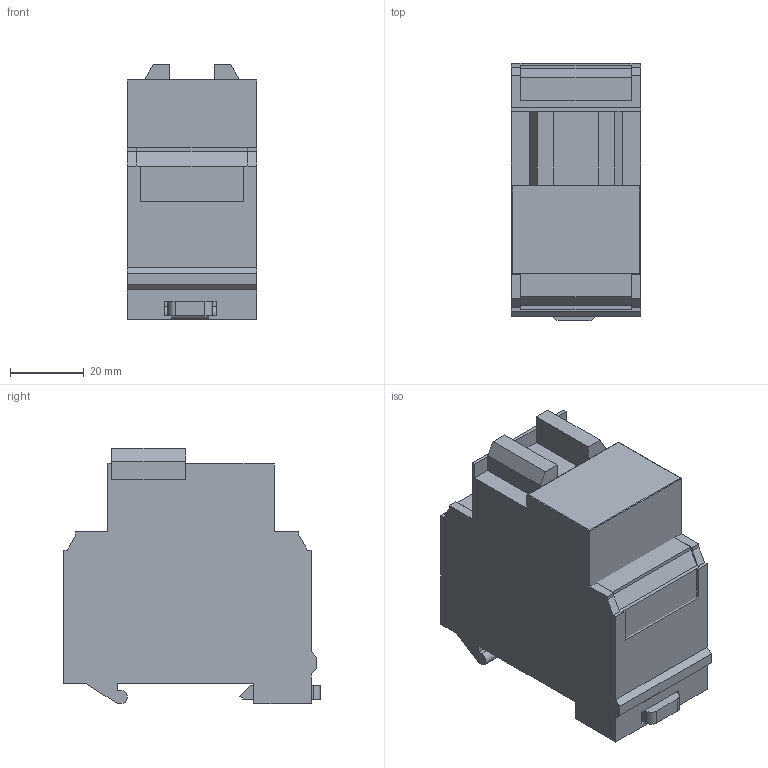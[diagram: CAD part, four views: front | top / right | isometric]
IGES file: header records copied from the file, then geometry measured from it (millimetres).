
Global section: file name: SBC_IGS_RIO_PCD7L400_2021-03-13.igs; native system: CAD Exchanger; preprocessor: CAD Exchanger 3.9.1 (cadexchanger.com); date: 20210317.084534; units: millimetre
Bounding box: 35 x 69.5 x 69 mm (x, y, z)
Volume: 127526.2 mm3; surface area: 23356.7 mm2
Topology: 6 solids, 6 shells, 108 faces, 284 edges, 188 vertices
Faces by surface type: plane 101, cylinder 7
